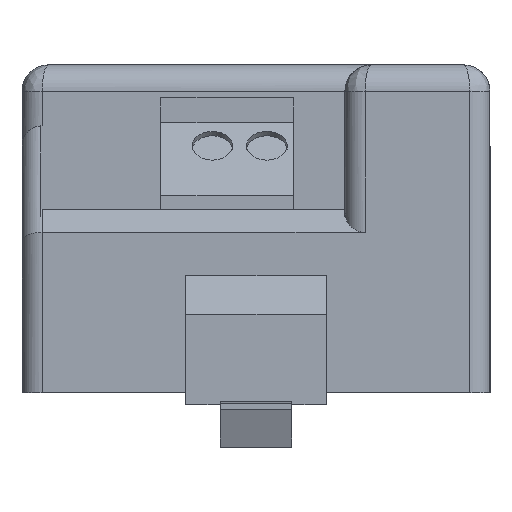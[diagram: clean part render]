
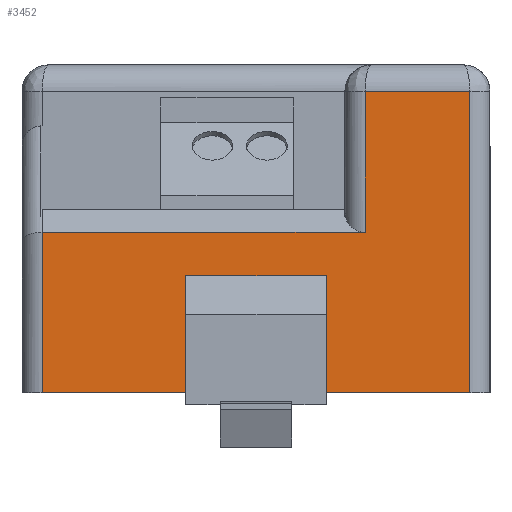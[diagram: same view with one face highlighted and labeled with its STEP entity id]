
A CAD part, left-side view. The second image highlights one B-rep face of the part: STEP entity #3452.
In plain terms, the highlighted planar face has unit normal (-1, 0, 0).
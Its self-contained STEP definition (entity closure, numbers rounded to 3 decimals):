
#112=DIRECTION('',(0.,-1.,0.));
#113=VECTOR('',#112,9.2);
#114=CARTESIAN_POINT('',(-60.,13.7,0.));
#115=LINE('',#114,#113);
#126=DIRECTION('',(0.,-1.,0.));
#127=VECTOR('',#126,9.2);
#128=CARTESIAN_POINT('',(-60.,-4.5,0.));
#129=LINE('',#128,#127);
#807=DIRECTION('',(0.,0.,1.));
#808=VECTOR('',#807,7.5);
#809=CARTESIAN_POINT('',(-60.,4.5,0.));
#810=LINE('',#809,#808);
#814=DIRECTION('',(0.,0.,-1.));
#815=VECTOR('',#814,10.265);
#816=CARTESIAN_POINT('',(-60.,13.7,10.265));
#817=LINE('',#816,#815);
#821=DIRECTION('',(0.,0.,-1.));
#822=VECTOR('',#821,9.035);
#823=CARTESIAN_POINT('',(-60.,-7.,19.3));
#824=LINE('',#823,#822);
#828=DIRECTION('',(0.,-1.,0.));
#829=VECTOR('',#828,6.7);
#830=CARTESIAN_POINT('',(-60.,-7.,19.3));
#831=LINE('',#830,#829);
#835=DIRECTION('',(0.,0.,-1.));
#836=VECTOR('',#835,19.3);
#837=CARTESIAN_POINT('',(-60.,-13.7,19.3));
#838=LINE('',#837,#836);
#842=DIRECTION('',(0.,0.,1.));
#843=VECTOR('',#842,7.5);
#844=CARTESIAN_POINT('',(-60.,-4.5,0.));
#845=LINE('',#844,#843);
#849=DIRECTION('',(0.,-1.,0.));
#850=VECTOR('',#849,9.);
#851=CARTESIAN_POINT('',(-60.,4.5,7.5));
#852=LINE('',#851,#850);
#1444=DIRECTION('',(0.,1.,0.));
#1445=VECTOR('',#1444,20.7);
#1446=CARTESIAN_POINT('',(-60.,-7.,10.265));
#1447=LINE('',#1446,#1445);
#2543=CARTESIAN_POINT('',(-60.,4.5,0.));
#2544=CARTESIAN_POINT('',(-60.,4.5,7.5));
#2545=VERTEX_POINT('',#2543);
#2546=VERTEX_POINT('',#2544);
#2547=CARTESIAN_POINT('',(-60.,-4.5,0.));
#2548=CARTESIAN_POINT('',(-60.,-4.5,7.5));
#2549=VERTEX_POINT('',#2547);
#2550=VERTEX_POINT('',#2548);
#2557=CARTESIAN_POINT('',(-60.,13.7,0.));
#2559=VERTEX_POINT('',#2557);
#2563=CARTESIAN_POINT('',(-60.,13.7,10.265));
#2564=VERTEX_POINT('',#2563);
#2576=CARTESIAN_POINT('',(-60.,-7.,
19.3));
#2577=CARTESIAN_POINT('',(-60.,-7.,10.265));
#2578=VERTEX_POINT('',#2576);
#2579=VERTEX_POINT('',#2577);
#2582=CARTESIAN_POINT('',(-60.,-13.7,0.));
#2584=VERTEX_POINT('',#2582);
#2585=CARTESIAN_POINT('',(-60.,-13.7,
19.3));
#2586=VERTEX_POINT('',#2585);
#3429=CARTESIAN_POINT('',(-60.,15.,0.));
#3430=DIRECTION('',(-1.,0.,0.));
#3431=DIRECTION('',(0.,-1.,0.));
#3432=AXIS2_PLACEMENT_3D('',#3429,#3430,#3431);
#3433=PLANE('',#3432);
#3434=ORIENTED_EDGE('',*,*,#2948,.F.);
#3435=ORIENTED_EDGE('',*,*,#2884,.F.);
#3437=ORIENTED_EDGE('',*,*,#3436,.F.);
#3439=ORIENTED_EDGE('',*,*,#3438,.F.);
#3441=ORIENTED_EDGE('',*,*,#3440,.F.);
#3443=ORIENTED_EDGE('',*,*,#3442,.T.);
#3445=ORIENTED_EDGE('',*,*,#3444,.T.);
#3446=ORIENTED_EDGE('',*,*,#2892,.F.);
#3447=ORIENTED_EDGE('',*,*,#3406,.T.);
#3449=ORIENTED_EDGE('',*,*,#3448,.F.);
#3450=EDGE_LOOP('',(#3434,#3435,#3437,#3439,#3441,#3443,#3445,#3446,#3447,
#3449));
#3451=FACE_OUTER_BOUND('',#3450,.F.);
#2884=EDGE_CURVE('',#2559,#2545,#115,.T.);
#2892=EDGE_CURVE('',#2549,#2584,#129,.T.);
#2948=EDGE_CURVE('',#2545,#2546,#810,.T.);
#3406=EDGE_CURVE('',#2549,#2550,#845,.T.);
#3436=EDGE_CURVE('',#2564,#2559,#817,.T.);
#3438=EDGE_CURVE('',#2579,#2564,#1447,.T.);
#3440=EDGE_CURVE('',#2578,#2579,#824,.T.);
#3442=EDGE_CURVE('',#2578,#2586,#831,.T.);
#3444=EDGE_CURVE('',#2586,#2584,#838,.T.);
#3448=EDGE_CURVE('',#2546,#2550,#852,.T.);
#3452=ADVANCED_FACE('',(#3451),#3433,.T.);
